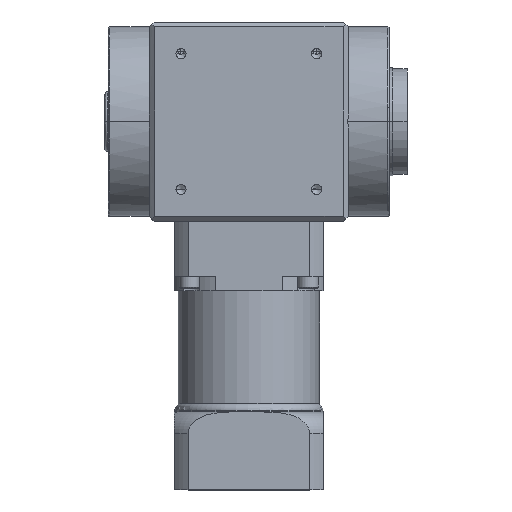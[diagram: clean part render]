
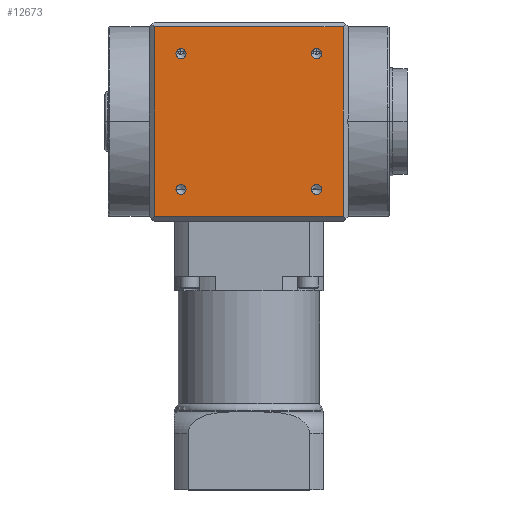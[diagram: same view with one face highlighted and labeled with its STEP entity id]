
A CAD part, top view. The second image highlights one B-rep face of the part: STEP entity #12673.
In plain terms, the highlighted planar face has unit normal (0, 0, 1).
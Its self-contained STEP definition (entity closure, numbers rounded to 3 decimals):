
#461 = VERTEX_POINT ( 'NONE', #19657 ) ;
#478 = ORIENTED_EDGE ( 'NONE', *, *, #3639, .F. ) ;
#1072 = CARTESIAN_POINT ( 'NONE',  ( -28.284, 109.516, 41.5 ) ) ;
#1131 = DIRECTION ( 'NONE',  ( 0., 1., 0. ) ) ;
#1140 = AXIS2_PLACEMENT_3D ( 'NONE', #8018, #18681, #9525 ) ;
#1338 = CARTESIAN_POINT ( 'NONE',  ( -39.292, 177.2, 41.5 ) ) ;
#1475 = DIRECTION ( 'NONE',  ( 0., -1., 0. ) ) ;
#1487 = ORIENTED_EDGE ( 'NONE', *, *, #7667, .F. ) ;
#1628 = DIRECTION ( 'NONE',  ( 0., 0., 1. ) ) ;
#1737 = CARTESIAN_POINT ( 'NONE',  ( 28.284, 107.416, 41.5 ) ) ;
#2057 = CARTESIAN_POINT ( 'NONE',  ( -39.292, 96.2, 41.5 ) ) ;
#2230 = EDGE_LOOP ( 'NONE', ( #14557, #12682 ) ) ;
#3166 = CARTESIAN_POINT ( 'NONE',  ( 39.292, 175.2, 41.5 ) ) ;
#3179 = CARTESIAN_POINT ( 'NONE',  ( 28.284, 105.316, 41.5 ) ) ;
#3215 = EDGE_CURVE ( 'NONE', #17425, #9691, #13917, .T. ) ;
#3250 = EDGE_CURVE ( 'NONE', #461, #4818, #13941, .T. ) ;
#3313 = EDGE_CURVE ( 'NONE', #8368, #7657, #13742, .T. ) ;
#3433 = DIRECTION ( 'NONE',  ( 0., -1., 0. ) ) ;
#3513 = CARTESIAN_POINT ( 'NONE',  ( -28.284, 161.884, 41.5 ) ) ;
#3562 = PLANE ( 'NONE',  #19743 ) ;
#3580 = CARTESIAN_POINT ( 'NONE',  ( -28.284, 163.984, 41.5 ) ) ;
#3629 = DIRECTION ( 'NONE',  ( 0., 0., -1. ) ) ;
#3639 = EDGE_CURVE ( 'NONE', #3793, #15338, #12938, .T. ) ;
#3694 = DIRECTION ( 'NONE',  ( 0., 0., 1. ) ) ;
#3793 = VERTEX_POINT ( 'NONE', #7981 ) ;
#3899 = CARTESIAN_POINT ( 'NONE',  ( -28.284, 107.416, 41.5 ) ) ;
#3923 = VERTEX_POINT ( 'NONE', #9000 ) ;
#4024 = EDGE_CURVE ( 'NONE', #3923, #10263, #11570, .T. ) ;
#4223 = ORIENTED_EDGE ( 'NONE', *, *, #3250, .F. ) ;
#4342 = DIRECTION ( 'NONE',  ( 0., -1., 0. ) ) ;
#4381 = DIRECTION ( 'NONE',  ( 0., 0., 1. ) ) ;
#4465 = CARTESIAN_POINT ( 'NONE',  ( -28.284, 107.416, 41.5 ) ) ;
#4793 = CARTESIAN_POINT ( 'NONE',  ( -28.284, 166.084, 41.5 ) ) ;
#4804 = EDGE_CURVE ( 'NONE', #15338, #5163, #6574, .T. ) ;
#4818 = VERTEX_POINT ( 'NONE', #1072 ) ;
#4948 = EDGE_CURVE ( 'NONE', #17929, #3793, #6027, .T. ) ;
#5009 = EDGE_CURVE ( 'NONE', #5163, #17929, #5554, .T. ) ;
#5030 = EDGE_CURVE ( 'NONE', #10263, #3923, #5456, .T. ) ;
#5061 = EDGE_CURVE ( 'NONE', #7657, #8368, #5315, .T. ) ;
#5089 = CARTESIAN_POINT ( 'NONE',  ( 28.284, 109.516, 41.5 ) ) ;
#5111 = EDGE_LOOP ( 'NONE', ( #7161, #5379 ) ) ;
#5163 = VERTEX_POINT ( 'NONE', #17117 ) ;
#5315 = CIRCLE ( 'NONE', #16106, 2.1 ) ;
#5379 = ORIENTED_EDGE ( 'NONE', *, *, #5030, .T. ) ;
#5456 = CIRCLE ( 'NONE', #16483, 2.1 ) ;
#5554 = LINE ( 'NONE', #17835, #5578 ) ;
#5578 = VECTOR ( 'NONE', #17654, 1000. ) ;
#5778 = CARTESIAN_POINT ( 'NONE',  ( 28.284, 166.084, 41.5 ) ) ;
#5841 = DIRECTION ( 'NONE',  ( 0., -1., 0. ) ) ;
#5946 = VECTOR ( 'NONE', #8382, 1000. ) ;
#6027 = LINE ( 'NONE', #8726, #5946 ) ;
#6368 = EDGE_LOOP ( 'NONE', ( #478, #18725, #14792, #8560 ) ) ;
#6523 = VECTOR ( 'NONE', #1131, 1000. ) ;
#6574 = LINE ( 'NONE', #1338, #6523 ) ;
#6718 = AXIS2_PLACEMENT_3D ( 'NONE', #18579, #18537, #18515 ) ;
#6965 = EDGE_LOOP ( 'NONE', ( #4223, #1487 ) ) ;
#7161 = ORIENTED_EDGE ( 'NONE', *, *, #4024, .T. ) ;
#7266 = DIRECTION ( 'NONE',  ( 0., 0., -1. ) ) ;
#7657 = VERTEX_POINT ( 'NONE', #4793 ) ;
#7667 = EDGE_CURVE ( 'NONE', #4818, #461, #9249, .T. ) ;
#7753 = CARTESIAN_POINT ( 'NONE',  ( -28.284, 163.984, 41.5 ) ) ;
#7981 = CARTESIAN_POINT ( 'NONE',  ( 39.292, 96.2, 41.5 ) ) ;
#8018 = CARTESIAN_POINT ( 'NONE',  ( 28.284, 107.416, 41.5 ) ) ;
#8248 = DIRECTION ( 'NONE',  ( 0., -1., 0. ) ) ;
#8368 = VERTEX_POINT ( 'NONE', #3513 ) ;
#8382 = DIRECTION ( 'NONE',  ( 0., -1., 0. ) ) ;
#8492 = DIRECTION ( 'NONE',  ( 0., 0., -1. ) ) ;
#8560 = ORIENTED_EDGE ( 'NONE', *, *, #4804, .F. ) ;
#8565 = CARTESIAN_POINT ( 'NONE',  ( 28.284, 163.984, 41.5 ) ) ;
#8726 = CARTESIAN_POINT ( 'NONE',  ( 39.292, 0., 41.5 ) ) ;
#9000 = CARTESIAN_POINT ( 'NONE',  ( 28.284, 161.884, 41.5 ) ) ;
#9249 = CIRCLE ( 'NONE', #13862, 2.1 ) ;
#9525 = DIRECTION ( 'NONE',  ( 0., -1., 0. ) ) ;
#9557 = ORIENTED_EDGE ( 'NONE', *, *, #11981, .F. ) ;
#9691 = VERTEX_POINT ( 'NONE', #5089 ) ;
#10263 = VERTEX_POINT ( 'NONE', #5778 ) ;
#10715 = FACE_BOUND ( 'NONE', #2230, .T. ) ;
#10740 = FACE_BOUND ( 'NONE', #6965, .T. ) ;
#10753 = FACE_OUTER_BOUND ( 'NONE', #6368, .T. ) ;
#10769 = FACE_BOUND ( 'NONE', #13487, .T. ) ;
#10871 = FACE_BOUND ( 'NONE', #5111, .T. ) ;
#11058 = AXIS2_PLACEMENT_3D ( 'NONE', #3580, #19032, #18607 ) ;
#11296 = AXIS2_PLACEMENT_3D ( 'NONE', #3899, #3694, #3433 ) ;
#11438 = AXIS2_PLACEMENT_3D ( 'NONE', #1737, #1628, #1475 ) ;
#11570 = CIRCLE ( 'NONE', #6718, 2.1 ) ;
#11981 = EDGE_CURVE ( 'NONE', #9691, #17425, #13927, .T. ) ;
#12645 = VECTOR ( 'NONE', #14278, 1000. ) ;
#12673 = ADVANCED_FACE ( 'NONE', ( #10753, #10740, #10769, #10871, #10715 ), #3562, .F. ) ;
#12682 = ORIENTED_EDGE ( 'NONE', *, *, #5061, .T. ) ;
#12710 = CARTESIAN_POINT ( 'NONE',  ( -41.5, 177.2, 41.5 ) ) ;
#12938 = LINE ( 'NONE', #14317, #12645 ) ;
#13487 = EDGE_LOOP ( 'NONE', ( #17785, #9557 ) ) ;
#13742 = CIRCLE ( 'NONE', #11058, 2.1 ) ;
#13862 = AXIS2_PLACEMENT_3D ( 'NONE', #4465, #4381, #4342 ) ;
#13917 = CIRCLE ( 'NONE', #11438, 2.1 ) ;
#13927 = CIRCLE ( 'NONE', #1140, 2.1 ) ;
#13941 = CIRCLE ( 'NONE', #11296, 2.1 ) ;
#14256 = DIRECTION ( 'NONE',  ( 0., 1., 0. ) ) ;
#14278 = DIRECTION ( 'NONE',  ( -1., 0., 0. ) ) ;
#14317 = CARTESIAN_POINT ( 'NONE',  ( -41.5, 96.2, 41.5 ) ) ;
#14557 = ORIENTED_EDGE ( 'NONE', *, *, #3313, .T. ) ;
#14792 = ORIENTED_EDGE ( 'NONE', *, *, #5009, .F. ) ;
#15338 = VERTEX_POINT ( 'NONE', #2057 ) ;
#16106 = AXIS2_PLACEMENT_3D ( 'NONE', #7753, #7266, #5841 ) ;
#16483 = AXIS2_PLACEMENT_3D ( 'NONE', #8565, #8492, #8248 ) ;
#17117 = CARTESIAN_POINT ( 'NONE',  ( -39.292, 175.2, 41.5 ) ) ;
#17425 = VERTEX_POINT ( 'NONE', #3179 ) ;
#17654 = DIRECTION ( 'NONE',  ( 1., 0., 0. ) ) ;
#17785 = ORIENTED_EDGE ( 'NONE', *, *, #3215, .F. ) ;
#17835 = CARTESIAN_POINT ( 'NONE',  ( 0., 175.2, 41.5 ) ) ;
#17929 = VERTEX_POINT ( 'NONE', #3166 ) ;
#18515 = DIRECTION ( 'NONE',  ( 0., -1., 0. ) ) ;
#18537 = DIRECTION ( 'NONE',  ( 0., 0., -1. ) ) ;
#18579 = CARTESIAN_POINT ( 'NONE',  ( 28.284, 163.984, 41.5 ) ) ;
#18607 = DIRECTION ( 'NONE',  ( 0., -1., 0. ) ) ;
#18681 = DIRECTION ( 'NONE',  ( 0., 0., 1. ) ) ;
#18725 = ORIENTED_EDGE ( 'NONE', *, *, #4948, .F. ) ;
#19032 = DIRECTION ( 'NONE',  ( 0., 0., -1. ) ) ;
#19657 = CARTESIAN_POINT ( 'NONE',  ( -28.284, 105.316, 41.5 ) ) ;
#19743 = AXIS2_PLACEMENT_3D ( 'NONE', #12710, #3629, #14256 ) ;
